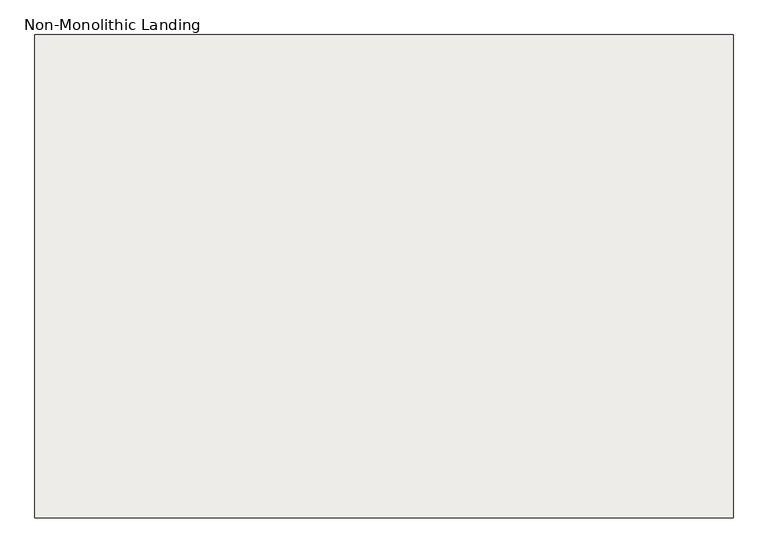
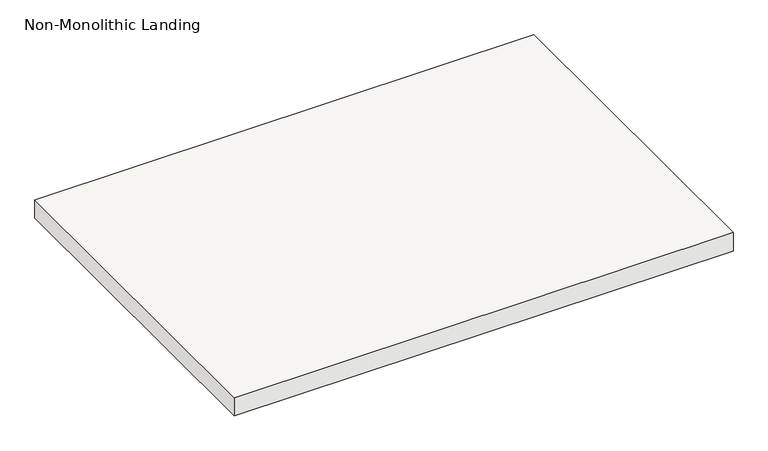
"""IFC4 building model written with IfcOpenShell, lengths in millimetres: slab geometry, Non-Monolithic Landing."""

from ifc_helpers import new_model, si_unit, frame, origin, place, context, project, spatial, polyline, outline, extrude, source, transform, mapped, element, save


def non_monolithic_landing_87ee3a28(model_context):
    return source(origin(), model_context, "Body", "SweptSolid", [
        extrude(outline(polyline([(112406.2736551, 16760.4395941), (113727.0736551, 16760.4395941), (113727.0736551, 15846.0395941), (112406.2736551, 15846.0395941), (112406.2736551, 16760.4395941)])), frame((0.0, 0.0, 2126.3428571), z_axis=(0.0, 0.0, 1.0), x_axis=(1.0, 0.0, 0.0)), (0.0, 0.0, 1.0), 50.8),
    ])


if __name__ == "__main__":
    model = new_model("IFC4")
    model_context = context("Model", 3, world=origin())
    ifc_project = project(units=[si_unit("LENGTHUNIT", "METRE", prefix="MILLI")], contexts=[model_context])
    site = spatial("IfcSite", under=ifc_project)
    building = spatial("IfcBuilding", under=site)
    placement = place(None, origin())
    non_monolithic_landing_shape = non_monolithic_landing_87ee3a28(model_context)
    element("IfcSlab", 1, ObjectType="Non-Monolithic Landing", at=placement, inside=building, context=model_context, shape_type="MappedRepresentation", body=[
        mapped(non_monolithic_landing_shape, transform((0.0, 0.0, 0.0), x_axis=(1.0, 0.0, 0.0), y_axis=(0.0, 1.0, 0.0), z_axis=(0.0, 0.0, 1.0))),
    ])
    save(model, "model.ifc")
